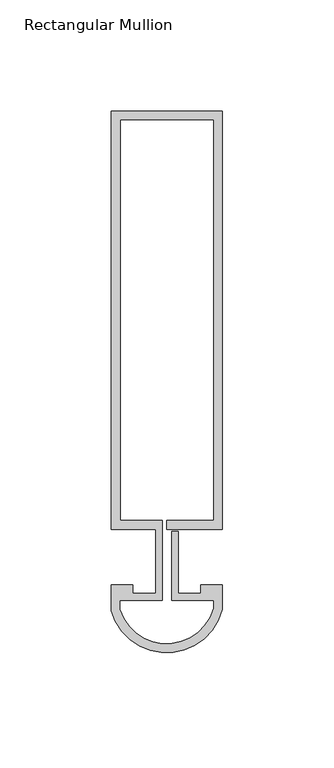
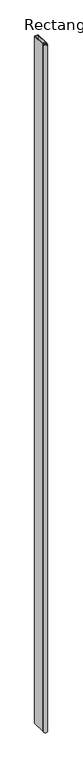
"""IFC4 building model written with IfcOpenShell, lengths in millimetres: member geometry, Rectangular Mullion : Reynaers_CW-50_Mullion-Transom_Vertical_188.5mm_Facecap-07."""

import ifcopenshell
import ifcopenshell.guid

model = None  # the IFC model being written
_history = None  # IfcOwnerHistory: only IFC2X3 demands one
_inside = {}  # id of a spatial element -> (the spatial element, [elements in it])
_under = {}  # id of a project, library or spatial element -> (it, [spatial elements below it])
_declared = {}  # id of a project -> (the project, [libraries it declares])
_typed = {}  # id of a type object -> (the type object, [elements of that type])
_made_of = {}  # id of a material, layer set ... -> (it, [elements and type objects made of it])


def new_model(schema):
    """Start an empty IFC model of exactly this schema.

    Asked for "IFC4X3", IfcOpenShell would pick the latest addendum, in which some entities
    have other attributes; the version numbers below select the first issue.
    IFC2X3 requires an IfcOwnerHistory on every rooted entity: one is made here for all.
    """
    global model, _history
    if schema == "IFC4X3":
        model = ifcopenshell.file(schema_version=(4, 3, 0, 0))
    else:
        model = ifcopenshell.file(schema=schema)
    _inside.clear()
    _under.clear()
    _declared.clear()
    _typed.clear()
    _made_of.clear()
    _history = None
    if model.schema == "IFC2X3":
        org = make("IfcOrganization", Name="unknown")
        user = make(
            "IfcPersonAndOrganization",
            ThePerson=make("IfcPerson", FamilyName="unknown"),
            TheOrganization=org,
        )
        app = make(
            "IfcApplication",
            ApplicationDeveloper=org,
            Version="unknown",
            ApplicationFullName="unknown",
            ApplicationIdentifier="unknown",
        )
        _history = make(
            "IfcOwnerHistory",
            OwningUser=user,
            OwningApplication=app,
            ChangeAction="ADDED",
            CreationDate=0,
        )
    return model


def make(cls, **values):
    """One entity of the class cls with the attributes given. An attribute that is None is left unset."""
    return model.create_entity(
        cls, **{name: value for name, value in values.items() if value is not None}
    )


def rooted(cls, **values):
    """An entity with a GlobalId (a new one), such as an element, a storey or a relation."""
    return make(cls, GlobalId=ifcopenshell.guid.new(), OwnerHistory=_history, **values)


def si_unit(unit_type, name, prefix=None):
    """IfcSIUnit, for example si_unit("LENGTHUNIT", "METRE", prefix="MILLI")."""
    return make("IfcSIUnit", UnitType=unit_type, Prefix=prefix, Name=name)


def assignment(units):
    """IfcUnitAssignment: the units of a project."""
    return None if units is None else make("IfcUnitAssignment", Units=units)


def point(xyz):
    """IfcCartesianPoint."""
    return None if xyz is None else make("IfcCartesianPoint", Coordinates=xyz)


def direction(xyz):
    """IfcDirection."""
    return None if xyz is None else make("IfcDirection", DirectionRatios=xyz)


def frame(location, z_axis=None, x_axis=None):
    """IfcAxis2Placement3D, a coordinate frame: its origin and axes. An axis left out is left unset."""
    return make(
        "IfcAxis2Placement3D",
        Location=point(location),
        Axis=direction(z_axis),
        RefDirection=direction(x_axis),
    )


def frame_2d(location, x_axis=None):
    """IfcAxis2Placement2D, a coordinate frame in the plane: its origin and x axis."""
    return make(
        "IfcAxis2Placement2D", Location=point(location), RefDirection=direction(x_axis)
    )


def origin():
    """The frame at (0, 0, 0) with its axes left unset."""
    return frame((0.0, 0.0, 0.0))


def place(relative_to, where):
    """IfcLocalPlacement: puts the frame where relative to a parent placement (None: the world)."""
    return make(
        "IfcLocalPlacement", PlacementRelTo=relative_to, RelativePlacement=where
    )


def context(
    kind, dimensions, precision=None, world=None, true_north=None, identifier=None
):
    """IfcGeometricRepresentationContext, for example the 3D "Model" context."""
    return make(
        "IfcGeometricRepresentationContext",
        ContextIdentifier=identifier,
        ContextType=kind,
        CoordinateSpaceDimension=dimensions,
        Precision=precision,
        WorldCoordinateSystem=world,
        TrueNorth=true_north,
    )


def project(units=None, contexts=None):
    """IfcProject with its units and contexts."""
    return rooted(
        "IfcProject",
        Name="project",
        RepresentationContexts=contexts,
        UnitsInContext=assignment(units),
    )


def spatial(cls, under=None, at=None, **own):
    """A site, building, storey or space (cls), placed at a placement, below another one or the project."""
    s = rooted(cls, ObjectPlacement=at, **own)
    if under is not None:
        _under.setdefault(under.id(), (under, []))[1].append(s)
    return s


def polyline(points):
    """IfcPolyline through the points."""
    return make("IfcPolyline", Points=[point(p) for p in points])


def circle_curve(where, radius):
    """IfcCircle in the frame where."""
    return make("IfcCircle", Position=where, Radius=radius)


def trimmed(basis, trim1, trim2, sense, master):
    """IfcTrimmedCurve: the piece of a basis curve between two trims."""
    return make(
        "IfcTrimmedCurve",
        BasisCurve=basis,
        Trim1=trim1,
        Trim2=trim2,
        SenseAgreement=sense,
        MasterRepresentation=master,
    )


def segment(curve, same_sense, transition):
    """IfcCompositeCurveSegment."""
    return make(
        "IfcCompositeCurveSegment",
        Transition=transition,
        SameSense=same_sense,
        ParentCurve=curve,
    )


def composite_curve(segments, self_intersect=None):
    """IfcCompositeCurve: segments joined end to end."""
    return make("IfcCompositeCurve", Segments=segments, SelfIntersect=self_intersect)


def outline(outer, holes=None, kind="AREA"):
    """IfcArbitraryClosedProfileDef: a profile drawn as a closed curve; with holes, ...WithVoids."""
    if holes is None:
        return make("IfcArbitraryClosedProfileDef", ProfileType=kind, OuterCurve=outer)
    return make(
        "IfcArbitraryProfileDefWithVoids",
        ProfileType=kind,
        OuterCurve=outer,
        InnerCurves=holes,
    )


def extrude(swept, where, along, depth):
    """IfcExtrudedAreaSolid: the profile swept, set in the frame where, extruded along a direction by depth."""
    return make(
        "IfcExtrudedAreaSolid",
        SweptArea=swept,
        Position=where,
        ExtrudedDirection=direction(along),
        Depth=depth,
    )


def shape(context_of_items, identifier, shape_type, items):
    """IfcShapeRepresentation: the items that make up one representation, for example the "Body"."""
    return make(
        "IfcShapeRepresentation",
        ContextOfItems=context_of_items,
        RepresentationIdentifier=identifier,
        RepresentationType=shape_type,
        Items=items,
    )


def source(mapping_origin, context_of_items, identifier, shape_type, items):
    """IfcRepresentationMap: a shape defined once, which mapped items show again and again."""
    return make(
        "IfcRepresentationMap",
        MappingOrigin=mapping_origin,
        MappedRepresentation=shape(context_of_items, identifier, shape_type, items),
    )


def transform(
    local_origin,
    x_axis=None,
    y_axis=None,
    z_axis=None,
    scale=None,
    scale2=None,
    scale3=None,
    uniform=True,
):
    """IfcCartesianTransformationOperator3D, or its non-uniform kind. x_axis, y_axis, z_axis: its Axis1, 2, 3."""
    if uniform:
        return make(
            "IfcCartesianTransformationOperator3D",
            Axis1=direction(x_axis),
            Axis2=direction(y_axis),
            LocalOrigin=point(local_origin),
            Scale=scale,
            Axis3=direction(z_axis),
        )
    return make(
        "IfcCartesianTransformationOperator3DnonUniform",
        Axis1=direction(x_axis),
        Axis2=direction(y_axis),
        LocalOrigin=point(local_origin),
        Scale=scale,
        Axis3=direction(z_axis),
        Scale2=scale2,
        Scale3=scale3,
    )


def mapped(mapping_source, mapping_target):
    """IfcMappedItem: shows the shape of a source again, moved by a transform."""
    return make(
        "IfcMappedItem", MappingSource=mapping_source, MappingTarget=mapping_target
    )


def made_of(thing, what):
    """Note that an element or type object is made of a material, layer set ...; save() writes the relation."""
    if what is not None:
        _made_of.setdefault(what.id(), (what, []))[1].append(thing)
    return thing


def element(
    cls,
    number,
    at=None,
    inside=None,
    cuts=None,
    type_object=None,
    material=None,
    context=None,
    identifier="Body",
    shape_type=None,
    held_by="IfcProductDefinitionShape",
    body=None,
    shapes=None,
    **own,
):
    """One element of the class cls, such as IfcWall. Its Tag is "e" and its number.

    at: its placement. inside: the storey or other place that contains it. cuts: it is an
    opening in that element (IfcRelVoidsElement). A single representation is given by context,
    identifier, shape_type and body (its items); several are given by shapes. held_by: the class
    of the entity that holds the representations. save() writes the other relations.
    """
    e = rooted(cls, Tag="e%d" % number, ObjectPlacement=at, **own)
    if body is not None:
        shapes = [shape(context, identifier, shape_type, body)]
    if shapes is not None:
        e.Representation = make(held_by, Representations=shapes)
    if inside is not None:
        _inside.setdefault(inside.id(), (inside, []))[1].append(e)
    if cuts is not None:
        rooted(
            "IfcRelVoidsElement", RelatingBuildingElement=cuts, RelatedOpeningElement=e
        )
    if type_object is not None:
        _typed.setdefault(type_object.id(), (type_object, []))[1].append(e)
    return made_of(e, material)


def aggregate(whole, parts):
    """IfcRelAggregates: a whole, such as a stair, and the parts it consists of."""
    return rooted("IfcRelAggregates", RelatingObject=whole, RelatedObjects=parts)


def save(model, path):
    """Write the relations noted so far, then the file.

    IfcRelAggregates (storeys below a building ...), IfcRelContainedInSpatialStructure (elements
    in a storey), IfcRelDefinesByType, IfcRelAssociatesMaterial and IfcRelDeclares: one each for
    every whole, place, type object, material and project.
    """
    for whole, parts in _under.values():
        aggregate(whole, parts)
    for where, things in _inside.values():
        rooted(
            "IfcRelContainedInSpatialStructure",
            RelatedElements=things,
            RelatingStructure=where,
        )
    for kind, things in _typed.values():
        rooted("IfcRelDefinesByType", RelatedObjects=things, RelatingType=kind)
    for what, things in _made_of.values():
        rooted("IfcRelAssociatesMaterial", RelatedObjects=things, RelatingMaterial=what)
    for by, libraries in _declared.values():
        rooted("IfcRelDeclares", RelatingContext=by, RelatedDefinitions=libraries)
    model.write(path)


def rectangular_mullion_b52e2a40(model_context):
    return source(origin(), model_context, "Body", "SweptSolid", [
        extrude(outline(composite_curve([segment(polyline([(-24.8004059, 201.0), (25.1995941, 201.0), (25.1995941, 12.5), (0.0, 12.5), (0.0, 16.5), (21.1995941, 16.5), (21.1995941, 197.0), (-20.8004059, 197.0), (-20.8004059, 16.5), (-1.9004059, 16.5), (-1.9004059, -19.5), (-20.994845, -19.5), (-20.994845, -23.684232)]), True, "CONTINUOUS"), segment(trimmed(circle_curve(frame_2d((0.0217873, -17.1383151)), 22.0124479), [point((-20.994845, -23.684232))], [point((21.1995941, -23.1423436))], True, "CARTESIAN"), True, "CONTINUOUS"), segment(polyline([(21.1995941, -23.1423436), (21.1995941, -19.5), (2.2995941, -19.5), (2.2995941, 11.5), (5.2995941, 11.5), (5.2995941, -16.5), (15.2996495, -16.5), (15.2996495, -12.5), (25.1995941, -12.5), (25.1995941, -23.6747887)]), True, "CONTINUOUS"), segment(trimmed(circle_curve(frame_2d((0.0217873, -17.1383151)), 26.0124479), [point((25.1995941, -23.6747887))], [point((-24.994845, -24.2668179))], False, "CARTESIAN"), True, "CONTINUOUS"), segment(polyline([(-24.994845, -24.2668179), (-24.994845, -12.5), (-15.2996495, -12.5), (-15.2996495, -16.5), (-4.9004059, -16.5), (-4.9004059, 12.5), (-24.8004059, 12.5), (-24.8004059, 201.0)]), True, "CONTINUOUS")], self_intersect=False)), frame((0.0, 0.0, -10400.0), z_axis=(0.0, 0.0, 1.0), x_axis=(1.0, 0.0, 0.0)), (0.0, 0.0, 1.0), 10400.0),
    ])


if __name__ == "__main__":
    model = new_model("IFC4")
    model_context = context("Model", 3, world=origin())
    ifc_project = project(units=[si_unit("LENGTHUNIT", "METRE", prefix="MILLI")], contexts=[model_context])
    site = spatial("IfcSite", under=ifc_project)
    building = spatial("IfcBuilding", under=site)
    placement = place(None, origin())
    rectangular_mullion_shape = rectangular_mullion_b52e2a40(model_context)
    element("IfcMember", 1, ObjectType="Rectangular Mullion : Reynaers_CW-50_Mullion-Transom_Vertical_188.5mm_Facecap-07", at=placement, inside=building, context=model_context, shape_type="MappedRepresentation", body=[
        mapped(rectangular_mullion_shape, transform((0.0, 0.0, 0.0), x_axis=(1.0, 0.0, 0.0), y_axis=(0.0, 1.0, 0.0), z_axis=(0.0, 0.0, 1.0))),
    ])
    save(model, "model.ifc")
